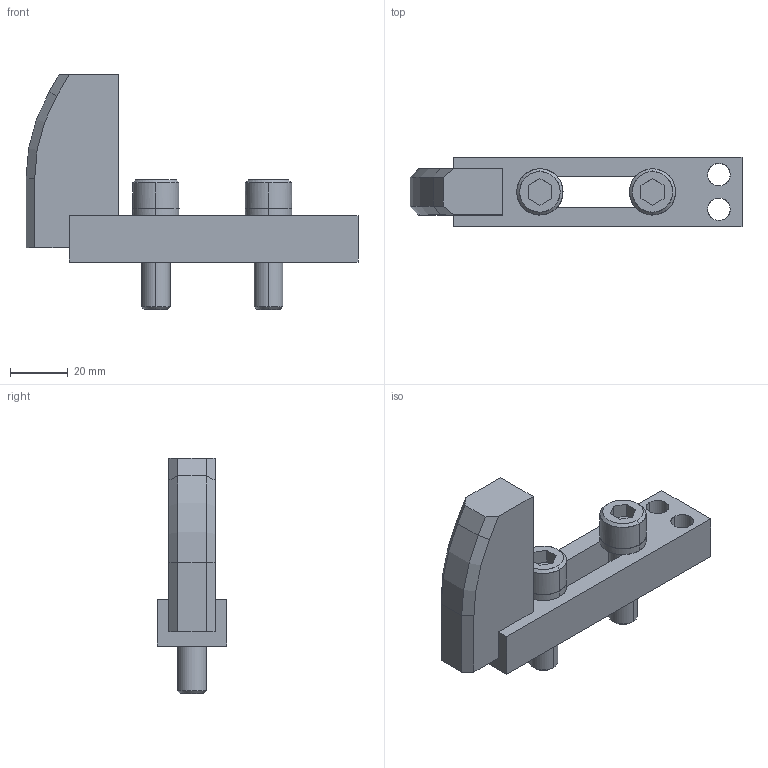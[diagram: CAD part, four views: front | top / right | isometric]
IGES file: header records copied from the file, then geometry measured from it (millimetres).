
Global section: file name: E:\UnigraphicsGraphicData\MISUMI_PRESS-PARTS\IGES\3d_ngnba-65-20-m10_01521_r00.igs; native system: NX V5.0; preprocessor: UGS NX IGES V5.0; author: MISUMI; date: 20110105.162048; units: millimetre
Bounding box: 115 x 24 x 81.5 mm (x, y, z)
Surface area: 22089.2 mm2 (no closed solid volume)
Topology: 0 solids, 0 shells, 100 faces, 630 edges, 630 vertices
Faces by surface type: bspline 100
